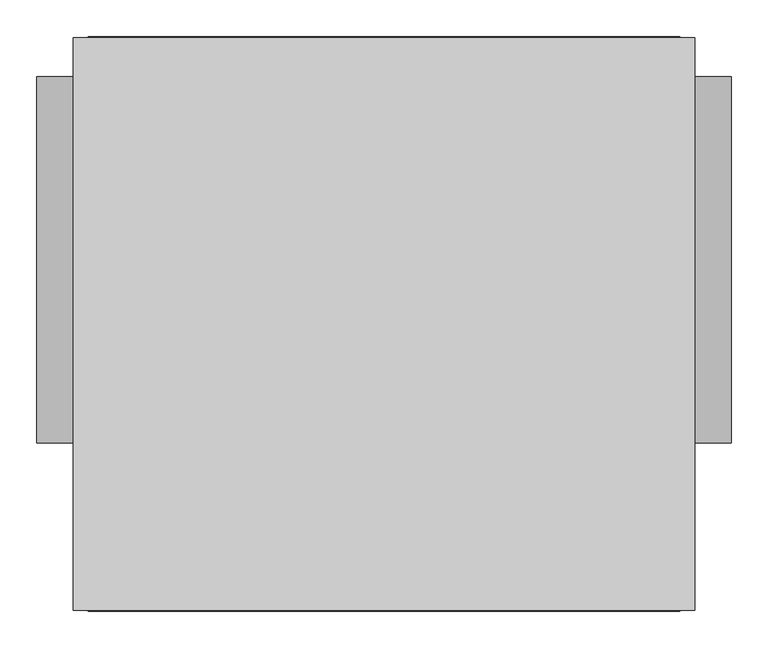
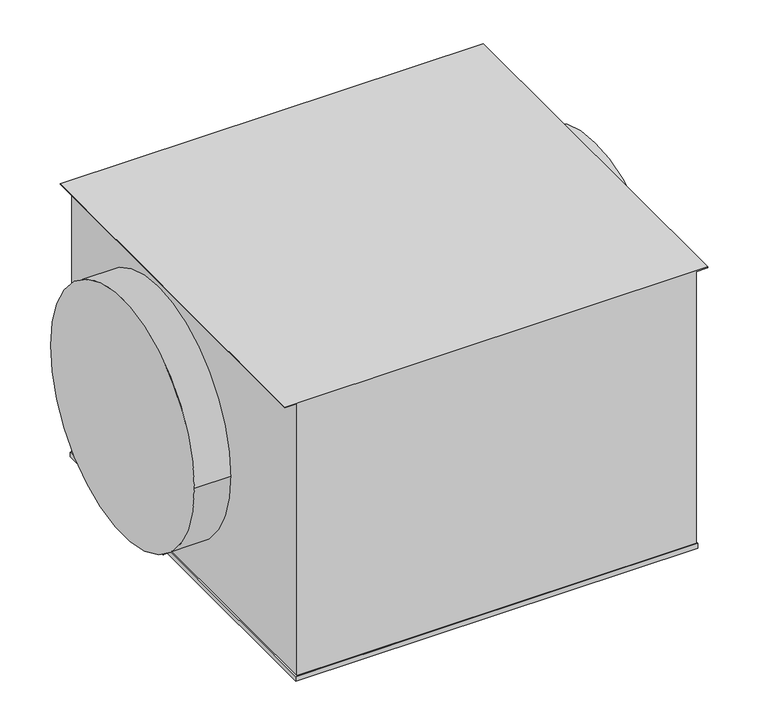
"""IFC4 building model written with IfcOpenShell, lengths in millimetres: unitary equipment geometry, VE-Wentylator-ParaForma-Harmann-ECOBOX_EC-Nawiewny : 500/4500EC."""

from ifc_helpers import new_model, si_unit, point, frame, origin, origin_2d, place, context, project, spatial, polyline, circle_curve, trimmed, segment, composite_curve, outline, extrude, source, transform, mapped, element, save


def unitary_equipment_b3884813(model_context):
    return source(origin(), model_context, "Body", "SweptSolid", [
        extrude(outline(polyline([(-402.6, -479.0), (-402.6, 304.0), (402.6, 304.0), (402.6, -479.0), (-402.6, -479.0)])), frame((0.0, 0.0, -294.0), z_axis=(0.0, 0.0, 1.0), x_axis=(1.0, 0.0, 0.0)), (0.0, 0.0, 1.0), 10.0),
        extrude(outline(polyline([(293.0, -423.5), (291.5, -423.5), (291.5, -400.0), (-284.0, -400.0), (-284.0, 400.0), (291.5, 400.0), (291.5, 423.5), (293.0, 423.5), (293.0, -423.5)])), frame((0.0, -477.5, 0.0), z_axis=(0.0, 1.0, 0.0), x_axis=(0.0, 0.0, 1.0)), (0.0, 0.0, 1.0), 780.0),
        extrude(outline(composite_curve([segment(trimmed(circle_curve(origin_2d(), 249.5), [point((-249.5, 0.0))], [point((249.5, 0.0))], False, "CARTESIAN"), True, "CONTINUOUS"), segment(trimmed(circle_curve(origin_2d(), 249.5), [point((249.5, 0.0))], [point((-249.5, 0.0))], False, "CARTESIAN"), True, "CONTINUOUS")], self_intersect=False)), frame((400.0, 0.0, 0.0), z_axis=(1.0, 0.0, 0.0), x_axis=(0.0, 1.0, 0.0)), (0.0, 0.0, 1.0), 73.0),
        extrude(outline(composite_curve([segment(trimmed(circle_curve(origin_2d(), 249.5), [point((-249.5, 0.0))], [point((249.5, 0.0))], False, "CARTESIAN"), True, "CONTINUOUS"), segment(trimmed(circle_curve(origin_2d(), 249.5), [point((249.5, 0.0))], [point((-249.5, 0.0))], False, "CARTESIAN"), True, "CONTINUOUS")], self_intersect=False)), frame((-473.0, 0.0, 0.0), z_axis=(1.0, 0.0, 0.0), x_axis=(0.0, 1.0, 0.0)), (0.0, 0.0, 1.0), 73.0),
    ])


if __name__ == "__main__":
    model = new_model("IFC4")
    model_context = context("Model", 3, world=origin())
    ifc_project = project(units=[si_unit("LENGTHUNIT", "METRE", prefix="MILLI")], contexts=[model_context])
    site = spatial("IfcSite", under=ifc_project)
    building = spatial("IfcBuilding", under=site)
    placement = place(None, origin())
    unitary_equipment_shape = unitary_equipment_b3884813(model_context)
    element("IfcUnitaryEquipment", 1, ObjectType="VE-Wentylator-ParaForma-Harmann-ECOBOX_EC-Nawiewny : 500/4500EC", at=placement, inside=building, context=model_context, shape_type="MappedRepresentation", body=[
        mapped(unitary_equipment_shape, transform((0.0, 0.0, 0.0), x_axis=(1.0, 0.0, 0.0), y_axis=(0.0, 1.0, 0.0), z_axis=(0.0, 0.0, 1.0))),
    ])
    save(model, "model.ifc")
